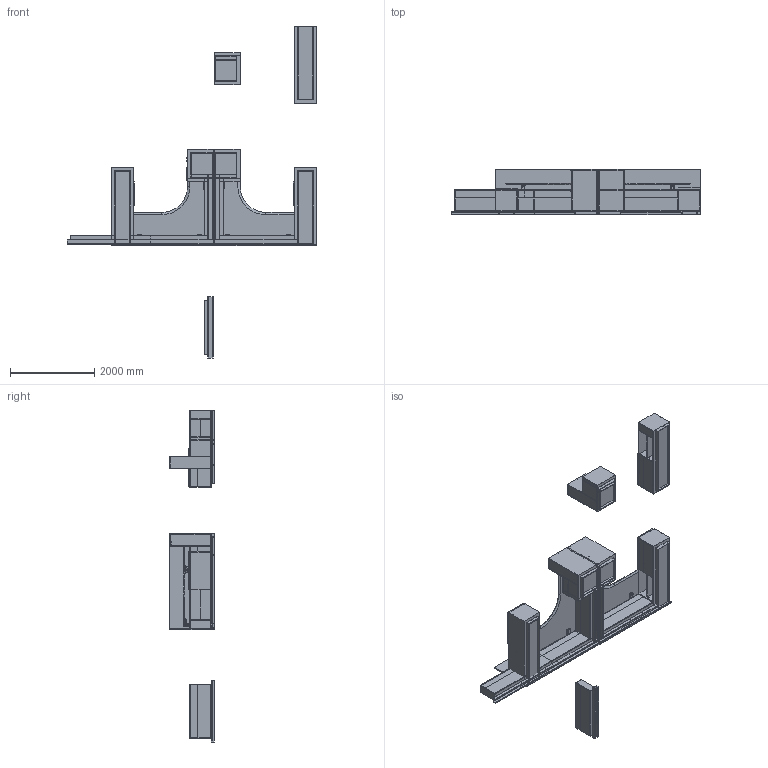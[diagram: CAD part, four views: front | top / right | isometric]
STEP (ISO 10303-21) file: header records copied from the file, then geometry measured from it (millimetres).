
FILE_DESCRIPTION(/* description */ ('','CAx-IF Rec.Pracs.---Representation and Presentation of Product Manufacturing Information (PMI)---4.0---2014-10-13'),/* implementation_level */ '2;1');
FILE_NAME(/* name */ 'WORKSTATION_ELEVATE 1.stp',/* time_stamp */ '2024-12-08T10:00:12-05:00',/* author */ ('mbowman'),/* organization */ (''),/* preprocessor_version */ 'ST-DEVELOPER v19.2',/* originating_system */ 'Autodesk Inventor 2023',/* authorisation */ '');
FILE_SCHEMA (('AP242_MANAGED_MODEL_BASED_3D_ENGINEERING_MIM_LF { 1 0 10303 442 1 1 4 }'));
Products named in the file (30): ELEVATIO^ADMIN_2 SEAT-TANDEM; ELEVATE^ADMIN_TANDEM CREDENZA-SHELF BAY LEFT; ELEVATE^ADMIN_TANDEM CREDENZA-SHELF BAY LEFT_1; ELEVATE^ADMIN_42x96x1.25-FRONT WALL; ELEVATE^ADMIN_TANDEM CREDENZA-SHELF BAY RIGHT; ELEVATE^ADMIN_TANDEM CREDENZA-SHELF BAY RIGHT_1; JW PULL-22_25_STANDARD; ELEVATE^ADMIN_42x89x1.5-CENTER DIVIDER WALL; ELEVATE^ADMIN_74.38x23x8 FRONT WIRE WALL-BASE TAIL LEFT; ELEVATE^ADMIN_74.38x23x8 FRONT WIRE WALL-BASE TAIL RIGHT; ELEVATE^ADMIN_COMBO LETTER RT WD LT; ELEVATE^ADMIN_COMBO LETTER RT WD LT_1; ELEVATE^ADMIN_COMBO LETTER LT WD RT; ELEVATE^ADMIN_COMBO LETTER LT WD RT_1; JW PULL-9^STANDARD; ELEVATE^ADMIN_54x23x8 SIDE WIRE WALL-LIFT COLUMN LEFT; ELEVATE^ADMIN_54x23x8 SIDE WIRE WALL-LIFT COLUMN RIGHT; ELEVATE^ADMIN_84.5x74.5-BOOM LT WORKSURFACE; ELEVATE^ADMIN_84.5x74.5-BOOM RT WORKSURFACE; dl5nc_without_bracket_STEP; DL5NC_OP; STANDART_MOTORHUS1_DL5; ELEVATE^ADMIN_COMBO LEGAL LT WD RT; ELEVATE^ADMIN_COMBO LEGAL LT WD RT_1; ELEVATE^ADMIN_COMBO LEGAL RT WD LT; ELEVATE^ADMIN_COMBO LEGAL RT WD LT_1; JW PULL-3^STANDARD; JW PULL-11_125^STANDARD; ELEVATE^ADMIN_51x23x8 SIDE WIRE WALL-LIFT COLUMN LEFT; ELEVATE^ADMIN_51x23x8 SIDE WIRE WALL-LIFT COLUMN RIGHT
Assembly tree (49 placements, depth 3):
  ELEVATIO^ADMIN_2 SEAT-TANDEM
    ELEVATE^ADMIN_TANDEM CREDENZA-SHELF BAY LEFT
      JW PULL-22_25_STANDARD  x2
      ELEVATE^ADMIN_TANDEM CREDENZA-SHELF BAY LEFT_1
    ELEVATE^ADMIN_42x96x1.25-FRONT WALL  x2
    ELEVATE^ADMIN_TANDEM CREDENZA-SHELF BAY RIGHT
      ELEVATE^ADMIN_TANDEM CREDENZA-SHELF BAY RIGHT_1
      JW PULL-22_25_STANDARD  x2
    ELEVATE^ADMIN_42x89x1.5-CENTER DIVIDER WALL
    ELEVATE^ADMIN_74.38x23x8 FRONT WIRE WALL-BASE TAIL LEFT
    ELEVATE^ADMIN_74.38x23x8 FRONT WIRE WALL-BASE TAIL RIGHT
    ELEVATE^ADMIN_COMBO LETTER RT WD LT
      ELEVATE^ADMIN_COMBO LETTER RT WD LT_1
      JW PULL-3^STANDARD
      JW PULL-9^STANDARD  x2
    ELEVATE^ADMIN_COMBO LETTER LT WD RT
      ELEVATE^ADMIN_COMBO LETTER LT WD RT_1
      JW PULL-3^STANDARD
      JW PULL-9^STANDARD  x2
    ELEVATE^ADMIN_54x23x8 SIDE WIRE WALL-LIFT COLUMN LEFT
    dl5nc_without_bracket_STEP  x8
      DL5NC_OP
      STANDART_MOTORHUS1_DL5
    ELEVATE^ADMIN_54x23x8 SIDE WIRE WALL-LIFT COLUMN RIGHT
    ELEVATE^ADMIN_84.5x74.5-BOOM LT WORKSURFACE
    ELEVATE^ADMIN_84.5x74.5-BOOM RT WORKSURFACE
    ELEVATE^ADMIN_COMBO LEGAL LT WD RT
      ELEVATE^ADMIN_COMBO LEGAL LT WD RT_1
      JW PULL-3^STANDARD
      JW PULL-11_125^STANDARD  x2
    ELEVATE^ADMIN_COMBO LEGAL RT WD LT
      ELEVATE^ADMIN_COMBO LEGAL RT WD LT_1
      JW PULL-3^STANDARD
      JW PULL-11_125^STANDARD  x2
    ELEVATE^ADMIN_51x23x8 SIDE WIRE WALL-LIFT COLUMN LEFT
    ELEVATE^ADMIN_51x23x8 SIDE WIRE WALL-LIFT COLUMN RIGHT
Bounding box: 5911.85 x 1066.8 x 7874 mm (x, y, z)
Volume: 1507357526.2 mm3; surface area: 150136285.3 mm2
Topology: 256 solids, 416 shells, 11176 faces, 28410 edges, 18090 vertices
Faces by surface type: plane 6712, cylinder 3594, torus 368, bspline 304, cone 102, sphere 96
Full cylindrical faces by diameter (mm): 4.6 x16, 5 x140, 5.3 x48, 5.5 x16, 8 x16, 8.202 x160
Entity records: 97687 total; most frequent: CARTESIAN_POINT 21930, DIRECTION 14679, ORIENTED_EDGE 13822, EDGE_CURVE 6911, LINE 5327, VECTOR 5327, AXIS2_PLACEMENT_3D 4676, VERTEX_POINT 4506
